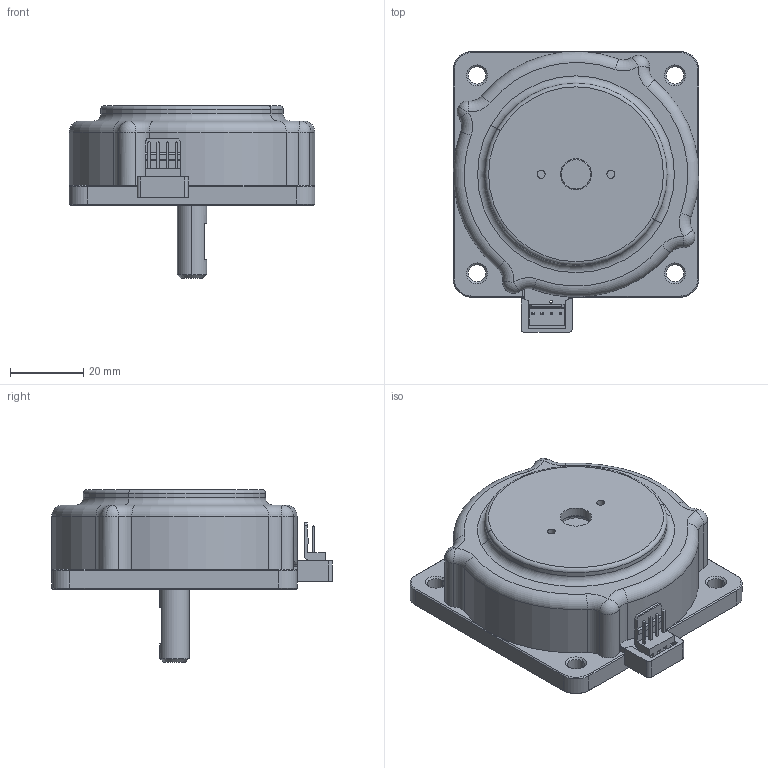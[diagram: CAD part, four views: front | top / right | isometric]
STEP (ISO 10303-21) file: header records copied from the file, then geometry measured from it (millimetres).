
FILE_DESCRIPTION (( 'STEP AP214' ), '1' );
FILE_NAME ('USR60_S3_STEP.STEP', '2013-09-16T09:42:55', ( '' ), ( '' ), 'SwSTEP 2.0', 'SolidWorks 2012', '' );
FILE_SCHEMA (( 'AUTOMOTIVE_DESIGN' ));
Length unit declared in the file: millimetre
Products named in the file (1): USR60_S3_STEP
Bounding box: 67 x 76.6 x 47.1 mm (x, y, z)
Surface area: 19133.7 mm2 (no closed solid volume)
Topology: 0 solids, 24 shells, 312 faces, 877 edges, 587 vertices
Faces by surface type: plane 153, cylinder 72, cone 58, torus 24, sphere 5
Entity records: 13491 total; most frequent: DIRECTION 1848, CARTESIAN_POINT 1777, ORIENTED_EDGE 1525, EDGE_CURVE 873, AXIS2_PLACEMENT_3D 664, VERTEX_POINT 585, LINE 520, VECTOR 520
